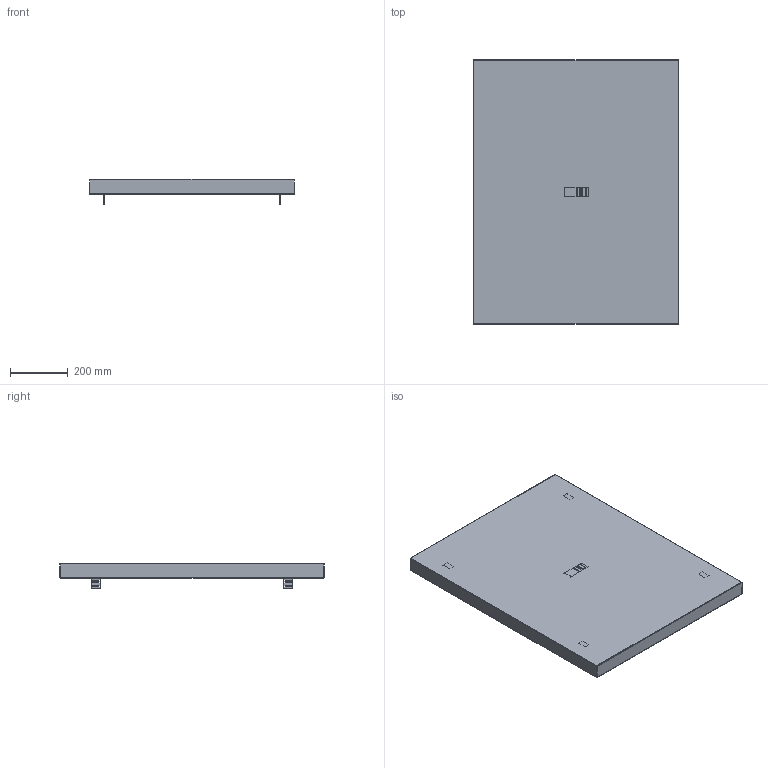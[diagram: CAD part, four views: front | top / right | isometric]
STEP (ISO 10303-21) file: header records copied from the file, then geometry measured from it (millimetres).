
FILE_DESCRIPTION( ( 'Unknown' ), '1' );
FILE_NAME( 'Q:/C2/WEB DRAWINGS/STEP/C2T2436R.stp', 'Unknown', ( 'Unknown' ), ( 'Unknown' ), 'XStep 1.0', 'Unknown', ' ' );
FILE_SCHEMA( ( 'CONFIG_CONTROL_DESIGN' ) );
Length unit declared in the file: millimetre
Products named in the file (3): Assem1; 1; 2
Bounding box: 711.2 x 914.4 x 87.55 mm (x, y, z)
Volume: 2472188 mm3; surface area: 3412306.4 mm2
Topology: 7 solids, 7 shells, 254 faces, 624 edges, 384 vertices
Faces by surface type: plane 196, cylinder 42, bspline 16
Entity records: 2816 total; most frequent: CARTESIAN_POINT 714, ORIENTED_EDGE 408, DIRECTION 380, EDGE_CURVE 204, LINE 168, VECTOR 168, VERTEX_POINT 120, AXIS2_PLACEMENT_3D 106
